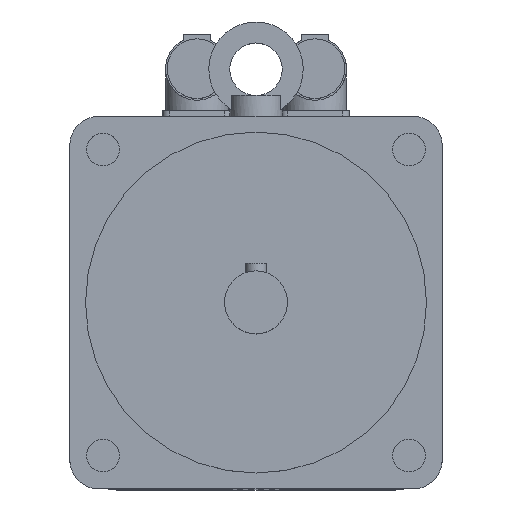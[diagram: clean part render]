
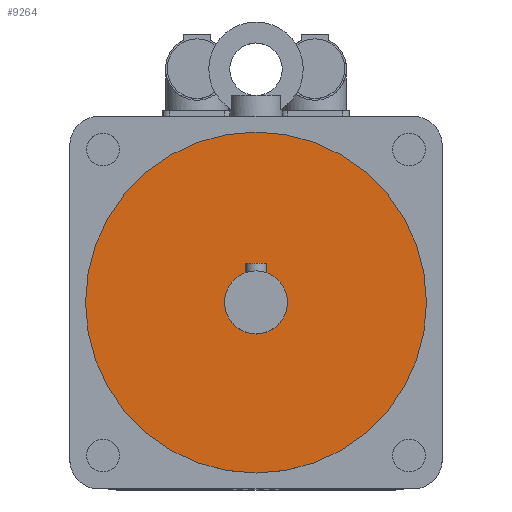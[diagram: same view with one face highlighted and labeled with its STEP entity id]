
A CAD part, top view. The second image highlights one B-rep face of the part: STEP entity #9264.
In plain terms, the highlighted planar face has unit normal (0, 0, 1).
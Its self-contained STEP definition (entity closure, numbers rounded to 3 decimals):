
#107=FACE_BOUND('',#909,.T.);
#283=FACE_OUTER_BOUND('',#908,.T.);
#908=EDGE_LOOP('',(#6623));
#909=EDGE_LOOP('',(#6624));
#1470=CIRCLE('',#9861,12.);
#1471=CIRCLE('',#9863,65.);
#4215=VERTEX_POINT('',#14403);
#4216=VERTEX_POINT('',#14406);
#5156=EDGE_CURVE('',#4215,#4215,#1470,.T.);
#5157=EDGE_CURVE('',#4216,#4216,#1471,.T.);
#6623=ORIENTED_EDGE('',*,*,#5157,.F.);
#6624=ORIENTED_EDGE('',*,*,#5156,.T.);
#8816=PLANE('',#9862);
#9264=ADVANCED_FACE('',(#283,#107),#8816,.T.);
#9861=AXIS2_PLACEMENT_3D('',#14404,#11242,#11243);
#9862=AXIS2_PLACEMENT_3D('',#14405,#11244,#11245);
#9863=AXIS2_PLACEMENT_3D('',#14407,#11246,#11247);
#11242=DIRECTION('center_axis',(0.,0.,-1.));
#11243=DIRECTION('ref_axis',(1.,0.,0.));
#11244=DIRECTION('center_axis',(0.,0.,1.));
#11245=DIRECTION('ref_axis',(1.,0.,0.));
#11246=DIRECTION('center_axis',(0.,0.,-1.));
#11247=DIRECTION('ref_axis',(1.,0.,0.));
#14403=CARTESIAN_POINT('',(0.,12.,222.));
#14404=CARTESIAN_POINT('Origin',(0.,0.,222.));
#14405=CARTESIAN_POINT('Origin',(0.,65.,222.));
#14406=CARTESIAN_POINT('',(0.,65.,222.));
#14407=CARTESIAN_POINT('Origin',(0.,0.,222.));
